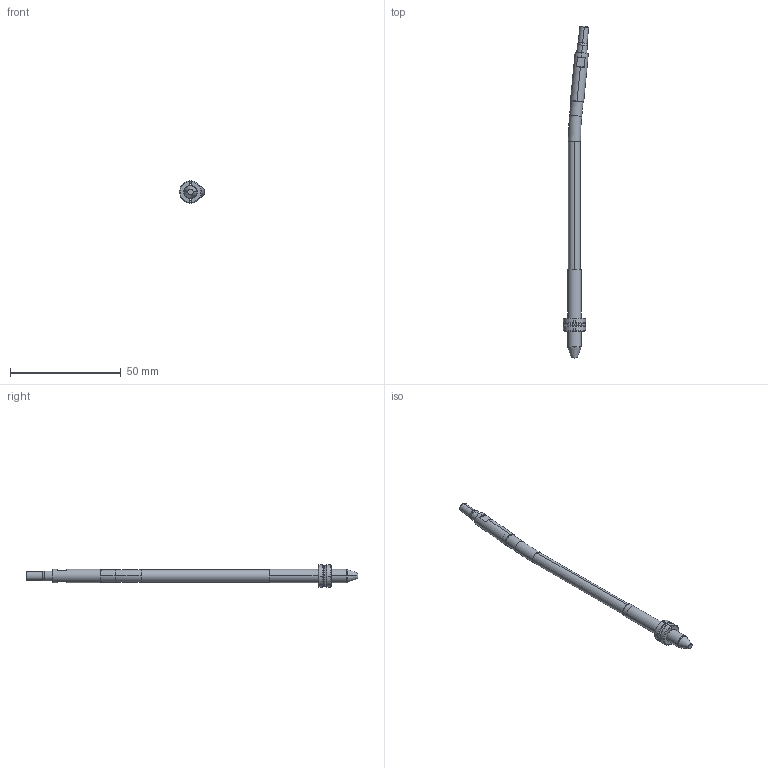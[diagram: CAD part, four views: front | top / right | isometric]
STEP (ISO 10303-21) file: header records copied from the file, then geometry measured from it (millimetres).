
FILE_DESCRIPTION (( 'STEP AP214' ), '1' );
FILE_NAME ('WP060060-OFF 5,5°.STEP', '2020-04-30T09:30:07', ( '' ), ( '' ), 'SwSTEP 2.0', 'SolidWorks 2019', '' );
FILE_SCHEMA (( 'AUTOMOTIVE_DESIGN' ));
Length unit declared in the file: millimetre
Products named in the file (6): WEB-001-9WP060030-1; WP060060-OFF 5,5°; WEB-002-9WP060030-2; WEB-007-9WP060060-F_WP060060-F-OFF 5,5ø; WEB-006-9WP060030-6; WEB-008-JUNTA-JT7X1X9
Assembly tree (5 placements, depth 2):
  WP060060-OFF 5,5°
    WEB-001-9WP060030-1
    WEB-007-9WP060060-F_WP060060-F-OFF 5,5ø
    WEB-002-9WP060030-2
    WEB-006-9WP060030-6
    WEB-008-JUNTA-JT7X1X9
Bounding box: 11.39 x 149.75 x 9.99 mm (x, y, z)
Volume: 3873.8 mm3; surface area: 3434.2 mm2
Topology: 6 solids, 6 shells, 112 faces, 262 edges, 164 vertices
Faces by surface type: cylinder 36, cone 28, plane 28, torus 20
Entity records: 3723 total; most frequent: CARTESIAN_POINT 714, DIRECTION 598, ORIENTED_EDGE 524, EDGE_CURVE 262, AXIS2_PLACEMENT_3D 256, VERTEX_POINT 164, CIRCLE 136, EDGE_LOOP 116
